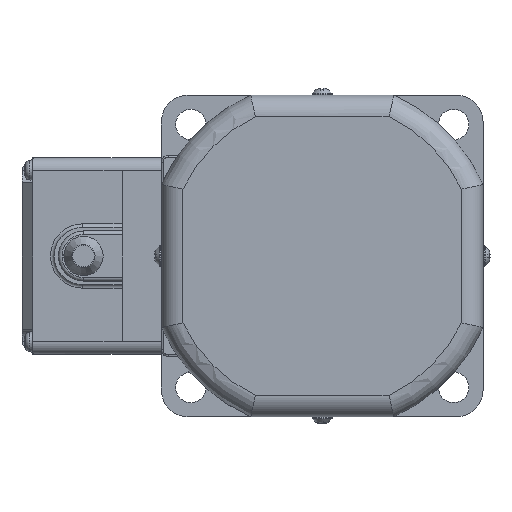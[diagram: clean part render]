
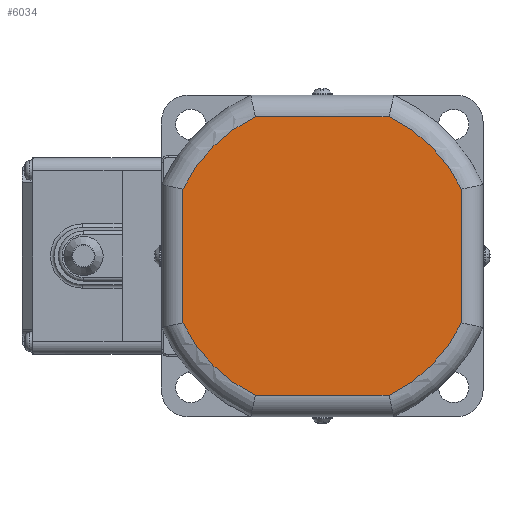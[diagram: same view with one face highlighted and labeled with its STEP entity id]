
A CAD part, left-side view. The second image highlights one B-rep face of the part: STEP entity #6034.
In plain terms, the highlighted planar face has unit normal (-1, 0, 0).
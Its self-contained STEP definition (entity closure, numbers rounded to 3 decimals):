
#380=LINE('',#9635,#770);
#381=LINE('',#9639,#771);
#382=LINE('',#9643,#772);
#383=LINE('',#9647,#773);
#770=VECTOR('',#7313,37.393);
#771=VECTOR('',#7316,37.393);
#772=VECTOR('',#7319,37.393);
#773=VECTOR('',#7322,37.393);
#1363=FACE_OUTER_BOUND('',#1748,.T.);
#1748=EDGE_LOOP('',(#4185,#4186,#4187,#4188,#4189,#4190,#4191,#4192));
#2122=CIRCLE('',#6450,43.25);
#2123=CIRCLE('',#6451,43.25);
#2124=CIRCLE('',#6452,43.25);
#2125=CIRCLE('',#6453,43.25);
#2480=VERTEX_POINT('',#9633);
#2481=VERTEX_POINT('',#9634);
#2482=VERTEX_POINT('',#9636);
#2483=VERTEX_POINT('',#9638);
#2484=VERTEX_POINT('',#9640);
#2485=VERTEX_POINT('',#9642);
#2486=VERTEX_POINT('',#9644);
#2487=VERTEX_POINT('',#9646);
#3129=EDGE_CURVE('',#2480,#2481,#380,.T.);
#3130=EDGE_CURVE('',#2482,#2480,#2122,.T.);
#3131=EDGE_CURVE('',#2483,#2482,#381,.T.);
#3132=EDGE_CURVE('',#2484,#2483,#2123,.T.);
#3133=EDGE_CURVE('',#2485,#2484,#382,.T.);
#3134=EDGE_CURVE('',#2486,#2485,#2124,.T.);
#3135=EDGE_CURVE('',#2487,#2486,#383,.T.);
#3136=EDGE_CURVE('',#2481,#2487,#2125,.T.);
#4185=ORIENTED_EDGE('',*,*,#3129,.F.);
#4186=ORIENTED_EDGE('',*,*,#3130,.F.);
#4187=ORIENTED_EDGE('',*,*,#3131,.F.);
#4188=ORIENTED_EDGE('',*,*,#3132,.F.);
#4189=ORIENTED_EDGE('',*,*,#3133,.F.);
#4190=ORIENTED_EDGE('',*,*,#3134,.F.);
#4191=ORIENTED_EDGE('',*,*,#3135,.F.);
#4192=ORIENTED_EDGE('',*,*,#3136,.F.);
#5565=PLANE('',#6449);
#6034=ADVANCED_FACE('',(#1363),#5565,.F.);
#6449=AXIS2_PLACEMENT_3D('',#9632,#7311,#7312);
#6450=AXIS2_PLACEMENT_3D('',#9637,#7314,#7315);
#6451=AXIS2_PLACEMENT_3D('',#9641,#7317,#7318);
#6452=AXIS2_PLACEMENT_3D('',#9645,#7320,#7321);
#6453=AXIS2_PLACEMENT_3D('',#9648,#7323,#7324);
#7311=DIRECTION('center_axis',(1.,0.,0.));
#7312=DIRECTION('ref_axis',(0.,1.,0.));
#7313=DIRECTION('',(0.,-1.,0.));
#7314=DIRECTION('center_axis',(1.,0.,0.));
#7315=DIRECTION('ref_axis',(0.,0.707,0.707));
#7316=DIRECTION('',(0.,0.,1.));
#7317=DIRECTION('center_axis',(1.,0.,0.));
#7318=DIRECTION('ref_axis',(0.,0.707,-0.707));
#7319=DIRECTION('',(0.,1.,0.));
#7320=DIRECTION('center_axis',(1.,0.,0.));
#7321=DIRECTION('ref_axis',(0.,-0.707,-0.707));
#7322=DIRECTION('',(0.,0.,-1.));
#7323=DIRECTION('center_axis',(1.,0.,0.));
#7324=DIRECTION('ref_axis',(0.,-0.707,0.707));
#9632=CARTESIAN_POINT('Origin',(-17.8,0.,
0.));
#9633=CARTESIAN_POINT('',(-17.8,18.697,39.));
#9634=CARTESIAN_POINT('',(-17.8,-18.697,39.));
#9635=CARTESIAN_POINT('',(-17.8,18.697,39.));
#9636=CARTESIAN_POINT('',(-17.8,39.,18.697));
#9637=CARTESIAN_POINT('Origin',(-17.8,0.,
0.));
#9638=CARTESIAN_POINT('',(-17.8,39.,-18.697));
#9639=CARTESIAN_POINT('',(-17.8,39.,-18.697));
#9640=CARTESIAN_POINT('',(-17.8,18.697,-39.));
#9641=CARTESIAN_POINT('Origin',(-17.8,0.,
0.));
#9642=CARTESIAN_POINT('',(-17.8,-18.697,-39.));
#9643=CARTESIAN_POINT('',(-17.8,-18.697,-39.));
#9644=CARTESIAN_POINT('',(-17.8,-39.,-18.697));
#9645=CARTESIAN_POINT('Origin',(-17.8,0.,
0.));
#9646=CARTESIAN_POINT('',(-17.8,-39.,18.697));
#9647=CARTESIAN_POINT('',(-17.8,-39.,18.697));
#9648=CARTESIAN_POINT('Origin',(-17.8,0.,
0.));
